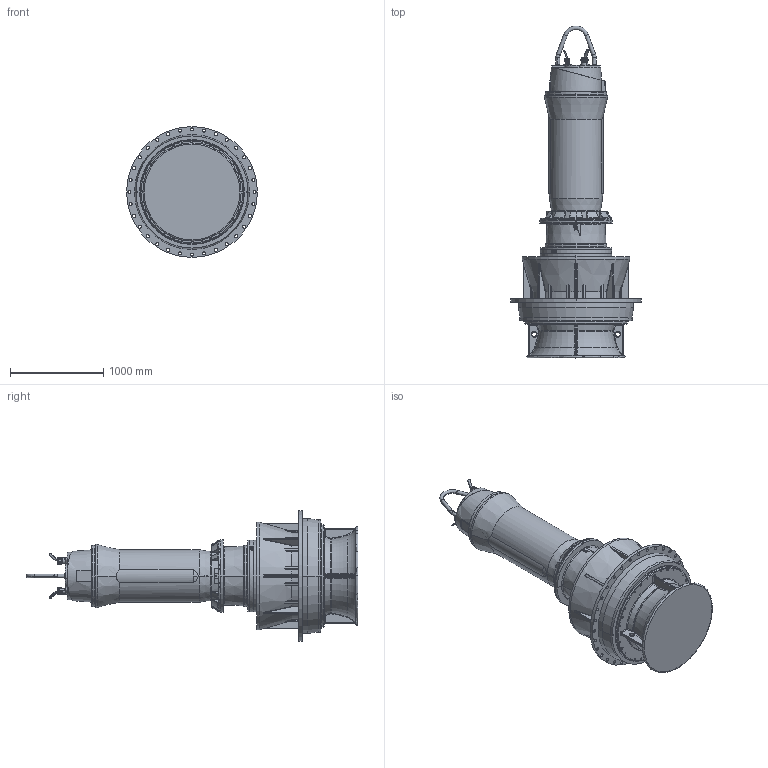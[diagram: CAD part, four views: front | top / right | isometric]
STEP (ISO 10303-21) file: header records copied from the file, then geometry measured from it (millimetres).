
FILE_DESCRIPTION (( 'STEP AP214' ), '1' );
FILE_NAME ('PE7_VUPX1000G3_DIN_B.STEP', '2017-05-04T12:55:18', ( '' ), ( '' ), 'SwSTEP 2.0', 'SolidWorks 2017', '' );
FILE_SCHEMA (( 'AUTOMOTIVE_DESIGN' ));
Length unit declared in the file: millimetre
Products named in the file (1): PE7_VUPX1000G3_DIN_B
Bounding box: 1400 x 3553 x 1400 mm (x, y, z)
Volume: 1438712617.5 mm3; surface area: 15309807.5 mm2
Topology: 4 solids, 37 shells, 3738 faces, 9153 edges, 5315 vertices
Faces by surface type: cylinder 987, plane 868, bspline 848, torus 472, cone 398, sphere 165
Entity records: 196649 total; most frequent: CARTESIAN_POINT 74911, ORIENTED_EDGE 17702, DIRECTION 15788, EDGE_CURVE 8851, AXIS2_PLACEMENT_3D 6506, VERTEX_POINT 5310, EDGE_LOOP 4005, UNCERTAINTY_MEASURE_WITH_UNIT 3744
